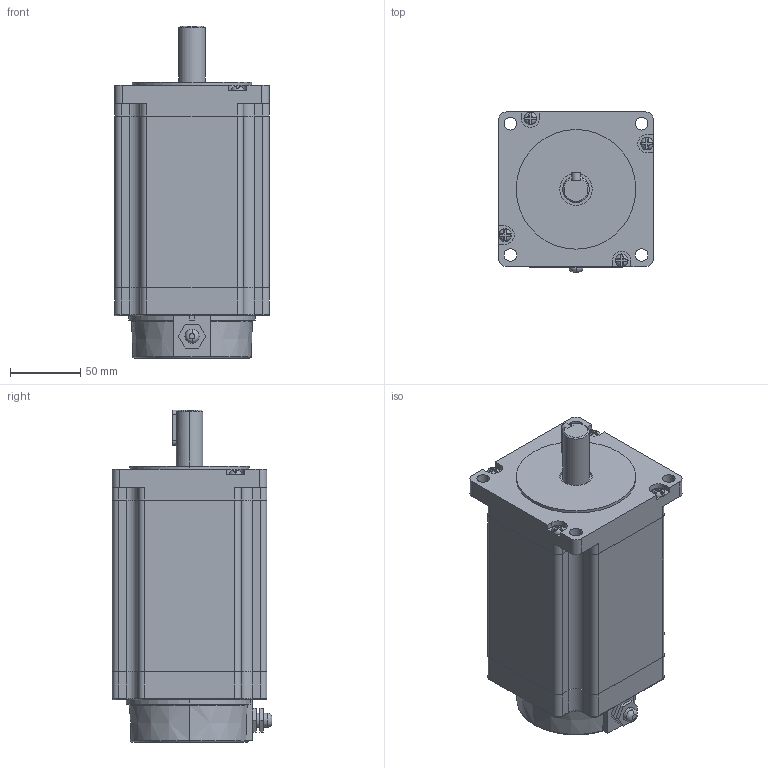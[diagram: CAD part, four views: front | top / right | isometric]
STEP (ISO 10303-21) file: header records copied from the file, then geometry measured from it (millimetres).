
FILE_DESCRIPTION (( 'STEP AP214' ), '1' );
FILE_NAME ('LS110C16-R6J50.STEP', '2021-09-07T02:58:32', ( '' ), ( '' ), 'SwSTEP 2.0', 'SolidWorks 2021', '' );
FILE_SCHEMA (( 'AUTOMOTIVE_DESIGN' ));
Length unit declared in the file: millimetre
Products named in the file (1): LS110C16-R6J50
Bounding box: 110 x 113.47 x 236 mm (x, y, z)
Volume: 1974322.4 mm3; surface area: 105805.5 mm2
Topology: 2 solids, 2 shells, 2897 faces, 8356 edges, 5560 vertices
Faces by surface type: plane 2770, cylinder 95, torus 27, cone 5
Entity records: 123842 total; most frequent: CARTESIAN_POINT 17191, ORIENTED_EDGE 16712, DIRECTION 14397, EDGE_CURVE 8356, LINE 8033, VECTOR 8033, VERTEX_POINT 5560, AXIS2_PLACEMENT_3D 3182
